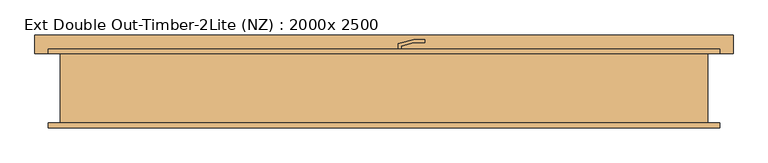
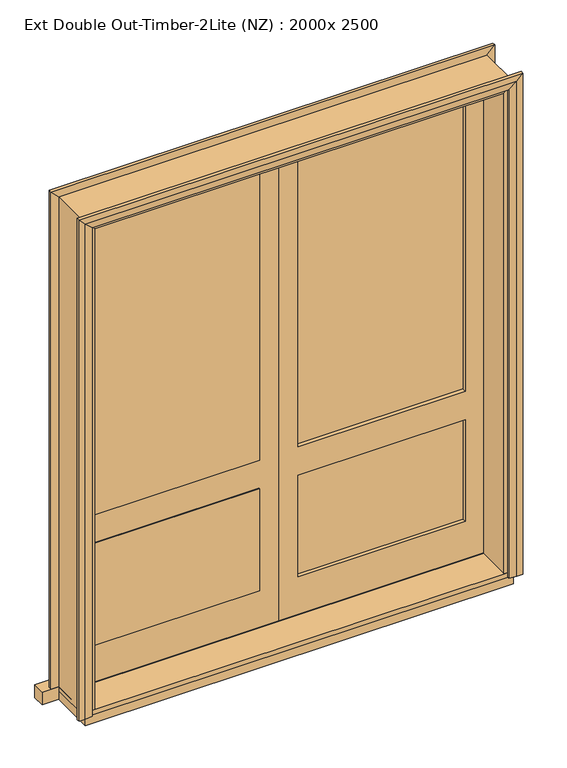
"""IFC4 building model written with IfcOpenShell, lengths in millimetres: door geometry, Ext Double Out-Timber-2Lite (NZ) : 2000x 2500."""

from ifc_helpers import new_model, si_unit, frame, origin, origin_with_axes, place, context, project, spatial, polyline, outline, extrude, faceted_brep, source, transform, mapped, element, save


def ext_double_out_timber_2lite_nz_2000x_2500_b5d1efe6(model_context):
    return source(origin(), model_context, "Body", "SolidModel", [
        extrude(outline(polyline([(-236.0, 53.2704827), (-1048.0, 53.2704827), (-1048.0, 78.2704827), (-236.0, 78.2704827), (-236.0, 53.2704827)])), frame((0.0, 0.0, 873.0), z_axis=(0.0, 0.0, 1.0), x_axis=(1.0, 0.0, 0.0)), (0.0, 0.0, 1.0), 1504.0),
        extrude(outline(polyline([(-236.0, 53.2704827), (-1048.0, 53.2704827), (-1048.0, 78.2704827), (-236.0, 78.2704827), (-236.0, 53.2704827)])), frame((0.0, 0.0, 213.0), z_axis=(0.0, 0.0, 1.0), x_axis=(1.0, 0.0, 0.0)), (0.0, 0.0, 1.0), 515.0),
        extrude(outline(polyline([(2471.0, -142.0), (2471.0, -1139.0), (23.0, -1139.0), (23.0, -142.0), (2471.0, -142.0)]), holes=[polyline([(2377.0, -1048.0), (2377.0, -236.0), (873.0, -236.0), (873.0, -1048.0), (2377.0, -1048.0)]), polyline([(728.0, -236.0), (213.0, -236.0), (213.0, -1048.0), (728.0, -1048.0), (728.0, -236.0)])]), frame((0.0, 59.2704827, 0.0), z_axis=(0.0, 1.0, 0.0), x_axis=(0.0, 0.0, 1.0)), (0.0, 0.0, 1.0), 48.0),
        extrude(outline(polyline([(753.0, 78.2704827), (-48.0, 78.2704827), (-48.0, 88.2704827), (753.0, 88.2704827), (753.0, 78.2704827)])), frame((0.0, 0.0, 873.0), z_axis=(0.0, 0.0, 1.0), x_axis=(1.0, 0.0, 0.0)), (0.0, 0.0, 1.0), 1504.0),
        extrude(outline(polyline([(753.0, 78.2704827), (-48.0, 78.2704827), (-48.0, 88.2704827), (753.0, 88.2704827), (753.0, 78.2704827)])), frame((0.0, 0.0, 213.0), z_axis=(0.0, 0.0, 1.0), x_axis=(1.0, 0.0, 0.0)), (0.0, 0.0, 1.0), 515.0),
        extrude(outline(polyline([(2471.0, -142.0), (23.0, -142.0), (23.0, 855.0), (2471.0, 855.0), (2471.0, -142.0)]), holes=[polyline([(2377.0, 753.0), (873.0, 753.0), (873.0, -48.0), (2377.0, -48.0), (2377.0, 753.0)]), polyline([(728.0, -48.0), (728.0, 753.0), (213.0, 753.0), (213.0, -48.0), (728.0, -48.0)])]), frame((0.0, 59.2704827, 0.0), z_axis=(0.0, 1.0, 0.0), x_axis=(0.0, 0.0, 1.0)), (0.0, 0.0, 1.0), 48.0),
        faceted_brep([(-1141.0, -122.7295173, 0.0), (-1176.0, -127.7295173, 0.0), (-1206.0, -127.7295173, 0.0), (-1206.0, -112.7295173, 0.0), (-1141.0, -112.7295173, 0.0), (-1141.0, -122.7295173, 2473.0), (-1176.0, -127.7295173, 2508.0), (-1206.0, -127.7295173, 2538.0), (-1206.0, -112.7295173, 2538.0), (-1141.0, -112.7295173, 2473.0), (857.0, -122.7295173, 0.0), (857.0, -112.7295173, 0.0), (922.0, -112.7295173, 0.0), (922.0, -127.7295173, 0.0), (892.0, -127.7295173, 0.0), (857.0, -122.7295173, 2473.0), (857.0, -112.7295173, 2473.0), (922.0, -112.7295173, 2538.0), (922.0, -127.7295173, 2538.0), (892.0, -127.7295173, 2508.0)], [[[0, 1, 2, 3, 4]], [[1, 0, 5, 6]], [[2, 1, 6, 7]], [[3, 2, 7, 8]], [[4, 3, 8, 9]], [[0, 4, 9, 5]], [[10, 11, 12, 13, 14]], [[15, 16, 11, 10]], [[16, 17, 12, 11]], [[17, 18, 13, 12]], [[18, 19, 14, 13]], [[19, 15, 10, 14]], [[6, 5, 15, 19]], [[7, 6, 19, 18]], [[8, 7, 18, 17]], [[9, 8, 17, 16]], [[5, 9, 16, 15]]]),
        faceted_brep([(-1136.0, 107.2704827, 0.0), (-1136.0, 56.2704827, 0.0), (-1124.0, 56.2704827, 0.0), (-1124.0, -112.7295173, 0.0), (-1168.0, -112.7295173, 0.0), (-1168.0, 107.2704827, 0.0), (-1136.0, 107.2704827, 2468.0), (-1136.0, 56.2704827, 2468.0), (-1124.0, 56.2704827, 2456.0), (-1124.0, -112.7295173, 2456.0), (-1168.0, -112.7295173, 2500.0), (-1168.0, 107.2704827, 2500.0), (852.0, 107.2704827, 0.0), (884.0, 107.2704827, 0.0), (884.0, -112.7295173, 0.0), (840.0, -112.7295173, 0.0), (840.0, 56.2704827, 0.0), (852.0, 56.2704827, 0.0), (852.0, 107.2704827, 2468.0), (884.0, 107.2704827, 2500.0), (884.0, -112.7295173, 2500.0), (840.0, -112.7295173, 2456.0), (840.0, 56.2704827, 2456.0), (852.0, 56.2704827, 2468.0)], [[[0, 1, 2, 3, 4, 5]], [[1, 0, 6, 7]], [[2, 1, 7, 8]], [[3, 2, 8, 9]], [[4, 3, 9, 10]], [[5, 4, 10, 11]], [[0, 5, 11, 6]], [[12, 13, 14, 15, 16, 17]], [[18, 19, 13, 12]], [[19, 20, 14, 13]], [[20, 21, 15, 14]], [[21, 22, 16, 15]], [[22, 23, 17, 16]], [[23, 18, 12, 17]], [[7, 6, 18, 23]], [[8, 7, 23, 22]], [[9, 8, 22, 21]], [[10, 9, 21, 20]], [[11, 10, 20, 19]], [[6, 11, 19, 18]]]),
        faceted_brep([(-1141.0, 117.2704827, 20.0), (-1141.0, 107.2704827, 20.0), (-1206.0, 107.2704827, 20.0), (-1206.0, 122.2704827, 20.0), (-1176.0, 122.2704827, 20.0), (-1141.0, 117.2704827, 2473.0), (-1141.0, 107.2704827, 2473.0), (-1206.0, 107.2704827, 2538.0), (-1206.0, 122.2704827, 2538.0), (-1176.0, 122.2704827, 2508.0), (857.0, 117.2704827, 20.0), (892.0, 122.2704827, 20.0), (922.0, 122.2704827, 20.0), (922.0, 107.2704827, 20.0), (857.0, 107.2704827, 20.0), (857.0, 117.2704827, 2473.0), (892.0, 122.2704827, 2508.0), (922.0, 122.2704827, 2538.0), (922.0, 107.2704827, 2538.0), (857.0, 107.2704827, 2473.0)], [[[0, 1, 2, 3, 4]], [[1, 0, 5, 6]], [[2, 1, 6, 7]], [[3, 2, 7, 8]], [[4, 3, 8, 9]], [[0, 4, 9, 5]], [[10, 11, 12, 13, 14]], [[15, 16, 11, 10]], [[16, 17, 12, 11]], [[17, 18, 13, 12]], [[18, 19, 14, 13]], [[19, 15, 10, 14]], [[6, 5, 15, 19]], [[7, 6, 19, 18]], [[8, 7, 18, 17]], [[9, 8, 17, 16]], [[5, 9, 16, 15]]]),
        extrude(outline(polyline([(-1168.0, 107.2704827), (-1248.0, 107.2704827), (-1248.0, 167.2704827), (964.0, 167.2704827), (964.0, 107.2704827), (884.0, 107.2704827), (884.0, -112.7295173), (-1168.0, -112.7295173), (-1168.0, 107.2704827)])), frame((0.0, 0.0, -45.0), z_axis=(0.0, 0.0, 1.0), x_axis=(1.0, 0.0, 0.0)), (0.0, 0.0, 1.0), 65.0),
        extrude(outline(polyline([(858.0, -114.7295173), (-1142.0, -114.7295173), (-1142.0, 56.2704827), (858.0, 56.2704827), (858.0, -114.7295173)])), origin_with_axes(), (0.0, 0.0, 1.0), 22.0),
        extrude(outline(polyline([(-87.0, 132.2704827), (-87.0, 117.2704827), (-96.6592583, 117.2704827), (-96.6592583, 139.060514), (-48.3629669, 152.0014662), (-13.3629669, 152.0014662), (-13.3629669, 142.6232445), (-48.3629669, 142.6232445), (-87.0, 132.2704827)])), frame((0.0, 0.0, 1000.0), z_axis=(0.0, 0.0, 1.0), x_axis=(1.0, 0.0, 0.0)), (0.0, 0.0, 1.0), 30.0),
        extrude(outline(polyline([(-112.0, 117.2704827), (-72.0, 117.2704827), (-72.0, 107.2704827), (-112.0, 107.2704827), (-112.0, 117.2704827)])), frame((0.0, 0.0, 940.0), z_axis=(0.0, 0.0, 1.0), x_axis=(1.0, 0.0, 0.0)), (0.0, 0.0, 1.0), 125.0),
    ])


if __name__ == "__main__":
    model = new_model("IFC4")
    model_context = context("Model", 3, world=origin())
    ifc_project = project(units=[si_unit("LENGTHUNIT", "METRE", prefix="MILLI")], contexts=[model_context])
    site = spatial("IfcSite", under=ifc_project)
    building = spatial("IfcBuilding", under=site)
    placement = place(None, origin())
    ext_double_out_timber_2lite_nz_2000x_2500_shape = ext_double_out_timber_2lite_nz_2000x_2500_b5d1efe6(model_context)
    element("IfcDoor", 1, ObjectType="Ext Double Out-Timber-2Lite (NZ) : 2000x 2500", at=placement, inside=building, context=model_context, shape_type="MappedRepresentation", body=[
        mapped(ext_double_out_timber_2lite_nz_2000x_2500_shape, transform((0.0, 0.0, 0.0), x_axis=(1.0, 0.0, 0.0), y_axis=(0.0, 1.0, 0.0), z_axis=(0.0, 0.0, 1.0))),
    ])
    save(model, "model.ifc")
